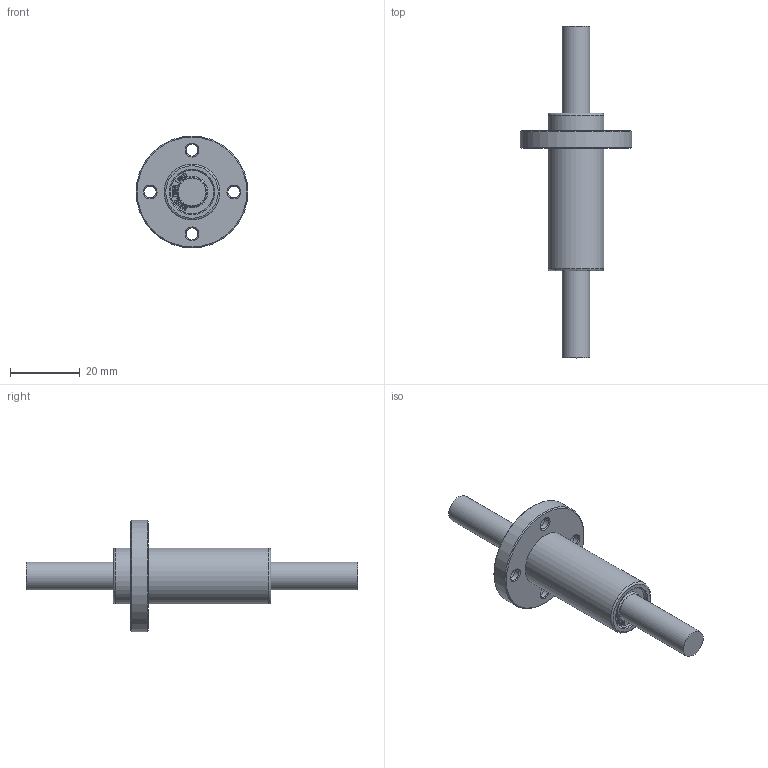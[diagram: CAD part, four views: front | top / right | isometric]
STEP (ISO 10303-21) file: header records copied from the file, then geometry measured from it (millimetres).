
FILE_DESCRIPTION(/* description */ (''),/* implementation_level */ '2;1');
FILE_NAME(/* name */ 'W:\(01) 2024년 홈페이지 CAD파일 최신화\LMEFP_L\IPT\LMEF08LUU.stp',/* time_stamp */ '2025-01-25T11:50:06+09:00',/* author */ ('서우현'),/* organization */ (''),/* preprocessor_version */ 'ST-DEVELOPER v17.2',/* originating_system */ 'Autodesk Inventor 2019',/* authorisation */ '');
FILE_SCHEMA (('AUTOMOTIVE_DESIGN { 1 0 10303 214 3 1 1 }'));
Length unit declared in the file: millimetre
Products named in the file (1): LM5
Bounding box: 32 x 95 x 32 mm (x, y, z)
Volume: 13889 mm3; surface area: 5723.1 mm2
Topology: 1 solids, 1 shells, 831 faces, 2337 edges, 1564 vertices
Faces by surface type: bspline 580, plane 220, cylinder 15, cone 14, torus 2
Full cylindrical faces by diameter (mm): 3.4 x4, 6.5 x4, 8 x2, 12.4 x2, 16 x2, 32 x1
Entity records: 28634 total; most frequent: CARTESIAN_POINT 10637, ORIENTED_EDGE 4674, EDGE_CURVE 2337, DIRECTION 1763, VERTEX_POINT 1564, B_SPLINE_CURVE_WITH_KNOTS 1160, LINE 1095, VECTOR 1095
